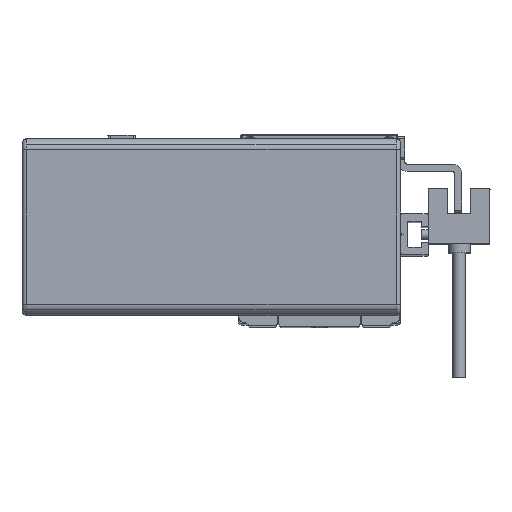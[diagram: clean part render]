
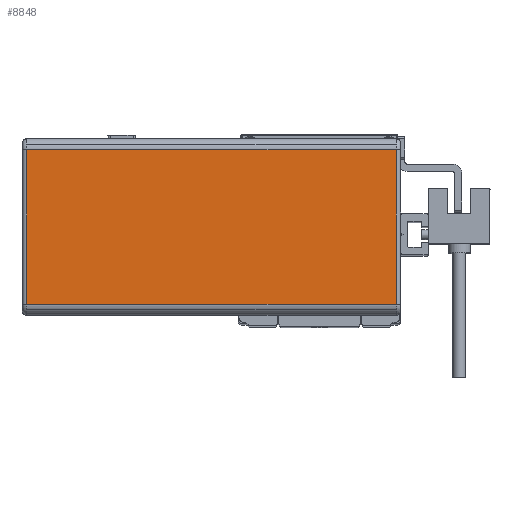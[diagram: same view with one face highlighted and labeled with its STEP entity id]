
A CAD part, top view. The second image highlights one B-rep face of the part: STEP entity #8848.
In plain terms, the highlighted planar face has unit normal (0, 0, 1) as drawn and (0, 0, -1) by its records, which use the part's own axes.
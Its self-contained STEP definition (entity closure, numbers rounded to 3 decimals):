
#666 = DIRECTION ( 'NONE',  ( 0., 1., 0. ) ) ;
#696 = CARTESIAN_POINT ( 'NONE',  ( -40.2, 16.8, 0. ) ) ;
#744 = DIRECTION ( 'NONE',  ( -1., 0., 0. ) ) ;
#751 = DIRECTION ( 'NONE',  ( 0., -1., 0. ) ) ;
#762 = CARTESIAN_POINT ( 'NONE',  ( -41.2, -16.8, 0. ) ) ;
#784 = CARTESIAN_POINT ( 'NONE',  ( 40.2, -16.8, 0. ) ) ;
#1029 = VECTOR ( 'NONE', #666, 1000. ) ;
#1034 = LINE ( 'NONE', #696, #1029 ) ;
#1042 = LINE ( 'NONE', #762, #1048 ) ;
#1048 = VECTOR ( 'NONE', #744, 1000. ) ;
#1063 = VECTOR ( 'NONE', #751, 1000. ) ;
#1074 = LINE ( 'NONE', #784, #1063 ) ;
#1130 = LINE ( 'NONE', #2290, #1146 ) ;
#1146 = VECTOR ( 'NONE', #2297, 1000. ) ;
#2290 = CARTESIAN_POINT ( 'NONE',  ( 41.2, 16.8, 0. ) ) ;
#2297 = DIRECTION ( 'NONE',  ( 1., 0., 0. ) ) ;
#3330 = CARTESIAN_POINT ( 'NONE',  ( -40.2, -16.8, 0. ) ) ;
#3340 = CARTESIAN_POINT ( 'NONE',  ( -40.2, 16.8, 0. ) ) ;
#3349 = CARTESIAN_POINT ( 'NONE',  ( 40.2, -16.8, 0. ) ) ;
#3370 = CARTESIAN_POINT ( 'NONE',  ( 40.2, 16.8, 0. ) ) ;
#5286 = ORIENTED_EDGE ( 'NONE', *, *, #22372, .T. ) ;
#5297 = ORIENTED_EDGE ( 'NONE', *, *, #22303, .T. ) ;
#5333 = ORIENTED_EDGE ( 'NONE', *, *, #22414, .T. ) ;
#5347 = ORIENTED_EDGE ( 'NONE', *, *, #22360, .T. ) ;
#8848 = ADVANCED_FACE ( 'NONE', ( #21180 ), #26314, .T. ) ;
#19942 = EDGE_LOOP ( 'NONE', ( #5333, #5286, #5347, #5297 ) ) ;
#21180 = FACE_OUTER_BOUND ( 'NONE', #19942, .T. ) ;
#22303 = EDGE_CURVE ( 'NONE', #23848, #23857, #1034, .T. ) ;
#22360 = EDGE_CURVE ( 'NONE', #23845, #23848, #1042, .T. ) ;
#22372 = EDGE_CURVE ( 'NONE', #23906, #23845, #1074, .T. ) ;
#22414 = EDGE_CURVE ( 'NONE', #23857, #23906, #1130, .T. ) ;
#23845 = VERTEX_POINT ( 'NONE', #3349 ) ;
#23848 = VERTEX_POINT ( 'NONE', #3330 ) ;
#23857 = VERTEX_POINT ( 'NONE', #3340 ) ;
#23906 = VERTEX_POINT ( 'NONE', #3370 ) ;
#24522 = AXIS2_PLACEMENT_3D ( 'NONE', #26277, #26316, #26260 ) ;
#26260 = DIRECTION ( 'NONE',  ( -1., 0., 0. ) ) ;
#26277 = CARTESIAN_POINT ( 'NONE',  ( 0., 0., 0. ) ) ;
#26314 = PLANE ( 'NONE',  #24522 ) ;
#26316 = DIRECTION ( 'NONE',  ( 0., 0., -1. ) ) ;
